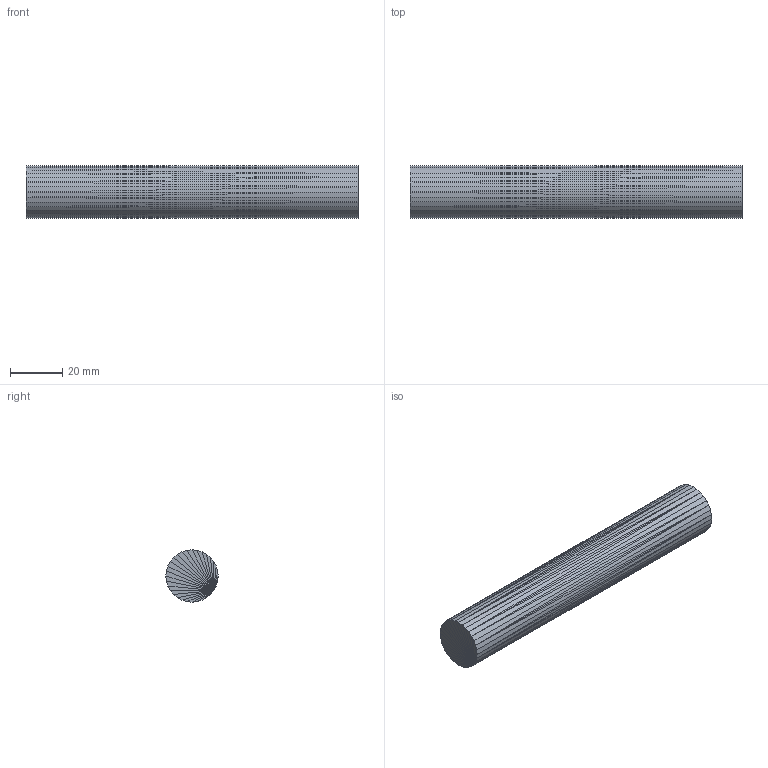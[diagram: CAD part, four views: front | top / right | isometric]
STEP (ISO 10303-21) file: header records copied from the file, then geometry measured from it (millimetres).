
FILE_DESCRIPTION(('Open CASCADE Model'),'2;1');
FILE_NAME('Open CASCADE Shape Model','2026-07-28T00:00:00+00:00',( 'Author'),('Open CASCADE'),'Open CASCADE STEP processor 7.8', 'build123d','Unknown');
FILE_SCHEMA(('AUTOMOTIVE_DESIGN { 1 0 10303 214 1 1 1 1 }'));
Length unit declared in the file: millimetre
Products named in the file (1): SOLID
Bounding box: 127 x 20 x 20 mm (x, y, z)
Volume: 39642.4 mm3; surface area: 8591.1 mm2
Topology: 1 solids, 1 shells, 124 faces, 186 edges, 64 vertices
Faces by surface type: plane 124
Entity records: 4672 total; most frequent: CARTESIAN_POINT 933, DIRECTION 622, ORIENTED_EDGE 372, LINE 372, VECTOR 372, PCURVE 372, DEFINITIONAL_REPRESENTATION 372, EDGE_CURVE 186
